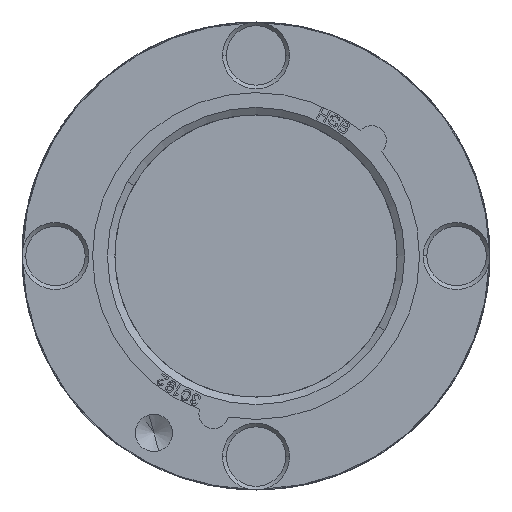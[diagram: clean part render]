
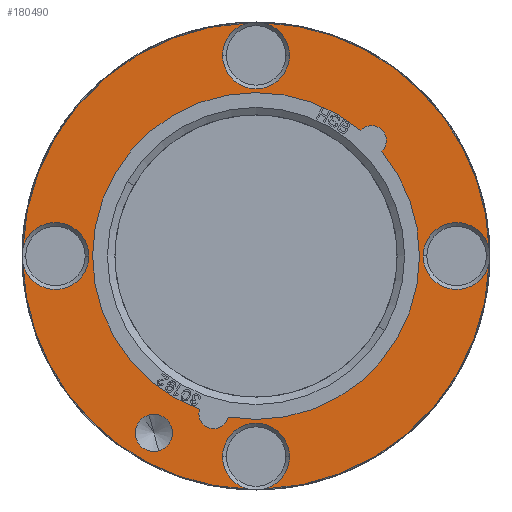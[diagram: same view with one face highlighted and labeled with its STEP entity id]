
A CAD part, left-side view. The second image highlights one B-rep face of the part: STEP entity #180490.
In plain terms, the highlighted planar face has unit normal (-1, 0, 0).
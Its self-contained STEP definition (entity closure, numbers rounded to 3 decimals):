
#178590=CARTESIAN_POINT('',(0.,-21.006,6.538));
#178600=VERTEX_POINT('',#178590);
#178630=CARTESIAN_POINT('',(0.,0.,0.
));
#178640=DIRECTION('',(-1.,0.,0.));
#178650=DIRECTION('',(0.,-0.383,0.924));
#178660=AXIS2_PLACEMENT_3D('',#178630,#178640,#178650);
#178670=CIRCLE('',#178660,22.);
#178680=CARTESIAN_POINT('',(0.,11.752,-18.598));
#178690=VERTEX_POINT('',#178680);
#178700=EDGE_CURVE('',#178690,#178600,#178670,.T.);
#178810=CARTESIAN_POINT('',(0.,0.,0.
));
#178820=DIRECTION('',(-1.,0.,0.));
#178830=DIRECTION('',(0.,-0.383,0.924));
#178840=AXIS2_PLACEMENT_3D('',#178810,#178820,#178830);
#178850=CIRCLE('',#178840,22.);
#178860=CARTESIAN_POINT('',(0.,-19.477,10.23));
#178870=VERTEX_POINT('',#178860);
#178880=CARTESIAN_POINT('',(0.,14.922,-16.165));
#178890=VERTEX_POINT('',#178880);
#178900=EDGE_CURVE('',#178870,#178890,#178850,.T.);
#179160=CARTESIAN_POINT('',(0.,-20.325,8.419));
#179170=DIRECTION('',(-1.,0.,0.));
#179180=DIRECTION('',(0.,0.383,0.924));
#179190=AXIS2_PLACEMENT_3D('',#179160,#179170,#179180);
#179200=CIRCLE('',#179190,2.);
#179210=EDGE_CURVE('',#178600,#178870,#179200,.T.);
#179260=CARTESIAN_POINT('',(0.,-28.096,-12.471));
#179270=DIRECTION('',(-1.,0.,-0.));
#179280=DIRECTION('',(0.,0.924,-0.383));
#179290=AXIS2_PLACEMENT_3D('',#179260,#179270,#179280);
#179300=PLANE('',#179290);
#179310=CARTESIAN_POINT('',(0.,21.817,-16.741));
#179320=DIRECTION('',(-1.,0.,0.));
#179330=DIRECTION('',(0.,-0.131,0.991));
#179340=AXIS2_PLACEMENT_3D('',#179310,#179320,#179330);
#179350=CIRCLE('',#179340,2.5);
#179360=CARTESIAN_POINT('',(0.,21.491,-14.262));
#179370=VERTEX_POINT('',#179360);
#179380=CARTESIAN_POINT('',(0.,22.144,-19.22));
#179390=VERTEX_POINT('',#179380);
#179400=EDGE_CURVE('',#179370,#179390,#179350,.T.);
#179410=ORIENTED_EDGE('',*,*,#179400,.F.);
#179420=EDGE_CURVE('',#179390,#179370,#179350,.T.);
#179430=ORIENTED_EDGE('',*,*,#179420,.F.);
#179440=EDGE_LOOP('',(#179430,#179410));
#179450=FACE_BOUND('',#179440,.T.);
#179460=ORIENTED_EDGE('',*,*,#178900,.F.);
#179470=CARTESIAN_POINT('',(0.,13.393,-17.454));
#179480=DIRECTION('',(-1.,0.,0.));
#179490=DIRECTION('',(0.,0.793,0.609));
#179500=AXIS2_PLACEMENT_3D('',#179470,#179480,#179490);
#179510=CIRCLE('',#179500,2.);
#179520=EDGE_CURVE('',#178890,#178690,#179510,.T.);
#179530=ORIENTED_EDGE('',*,*,#179520,.F.);
#179540=ORIENTED_EDGE('',*,*,#178700,.F.);
#179550=ORIENTED_EDGE('',*,*,#179210,.F.);
#179560=EDGE_LOOP('',(#179550,#179540,#179530,#179460));
#179570=FACE_BOUND('',#179560,.T.);
#179580=CARTESIAN_POINT('',(0.,-10.332,24.945));
#179590=DIRECTION('',(-1.,0.,0.));
#179600=DIRECTION('',(0.,0.924,0.383));
#179610=AXIS2_PLACEMENT_3D('',#179580,#179590,#179600);
#179620=CIRCLE('',#179610,4.5);
#179630=CARTESIAN_POINT('',(0.,-11.07,
29.384));
#179640=VERTEX_POINT('',#179630);
#179650=CARTESIAN_POINT('',(0.,-6.175,
26.667));
#179660=VERTEX_POINT('',#179650);
#179670=EDGE_CURVE('',#179640,#179660,#179620,.T.);
#179680=ORIENTED_EDGE('',*,*,#179670,.F.);
#179690=CARTESIAN_POINT('',(0.,-14.49,
23.223));
#179700=VERTEX_POINT('',#179690);
#179710=EDGE_CURVE('',#179660,#179700,#179620,.T.);
#179720=ORIENTED_EDGE('',*,*,#179710,.F.);
#179730=CARTESIAN_POINT('',(0.,-12.95,
28.605));
#179740=VERTEX_POINT('',#179730);
#179750=EDGE_CURVE('',#179700,#179740,#179620,.T.);
#179760=ORIENTED_EDGE('',*,*,#179750,.F.);
#179770=CARTESIAN_POINT('',(0.,0.,0.
));
#179780=DIRECTION('',(-1.,0.,0.));
#179790=DIRECTION('',(0.,0.924,-0.383));
#179800=AXIS2_PLACEMENT_3D('',#179770,#179780,#179790);
#179810=CIRCLE('',#179800,31.4);
#179820=CARTESIAN_POINT('',(0.,-29.01,12.016));
#179830=VERTEX_POINT('',#179820);
#179840=EDGE_CURVE('',#179830,#179740,#179810,.T.);
#179850=ORIENTED_EDGE('',*,*,#179840,.T.);
#179860=CARTESIAN_POINT('',(0.,-29.384,
-11.07));
#179870=VERTEX_POINT('',#179860);
#179880=EDGE_CURVE('',#179870,#179830,#179810,.T.);
#179890=ORIENTED_EDGE('',*,*,#179880,.T.);
#179900=CARTESIAN_POINT('',(0.,-24.945,-10.332));
#179910=DIRECTION('',(-1.,0.,0.));
#179920=DIRECTION('',(0.,0.924,0.383));
#179930=AXIS2_PLACEMENT_3D('',#179900,#179910,#179920);
#179940=CIRCLE('',#179930,4.5);
#179950=CARTESIAN_POINT('',(0.,-20.787,
-8.61));
#179960=VERTEX_POINT('',#179950);
#179970=EDGE_CURVE('',#179870,#179960,#179940,.T.);
#179980=ORIENTED_EDGE('',*,*,#179970,.F.);
#179990=CARTESIAN_POINT('',(0.,-28.605,
-12.95));
#180000=VERTEX_POINT('',#179990);
#180010=EDGE_CURVE('',#179960,#180000,#179940,.T.);
#180020=ORIENTED_EDGE('',*,*,#180010,.F.);
#180030=CARTESIAN_POINT('',(0.,11.07,
-29.384));
#180040=VERTEX_POINT('',#180030);
#180050=EDGE_CURVE('',#180040,#180000,#179810,.T.);
#180060=ORIENTED_EDGE('',*,*,#180050,.T.);
#180070=CARTESIAN_POINT('',(0.,10.332,-24.945));
#180080=DIRECTION('',(-1.,0.,0.));
#180090=DIRECTION('',(0.,0.924,0.383));
#180100=AXIS2_PLACEMENT_3D('',#180070,#180080,#180090);
#180110=CIRCLE('',#180100,4.5);
#180120=CARTESIAN_POINT('',(0.,6.175,
-26.667));
#180130=VERTEX_POINT('',#180120);
#180140=EDGE_CURVE('',#180040,#180130,#180110,.T.);
#180150=ORIENTED_EDGE('',*,*,#180140,.F.);
#180160=CARTESIAN_POINT('',(0.,14.49,
-23.223));
#180170=VERTEX_POINT('',#180160);
#180180=EDGE_CURVE('',#180130,#180170,#180110,.T.);
#180190=ORIENTED_EDGE('',*,*,#180180,.F.);
#180200=CARTESIAN_POINT('',(0.,12.95,
-28.605));
#180210=VERTEX_POINT('',#180200);
#180220=EDGE_CURVE('',#180170,#180210,#180110,.T.);
#180230=ORIENTED_EDGE('',*,*,#180220,.F.);
#180240=CARTESIAN_POINT('',(0.,29.01,-12.016));
#180250=VERTEX_POINT('',#180240);
#180260=EDGE_CURVE('',#180250,#180210,#179810,.T.);
#180270=ORIENTED_EDGE('',*,*,#180260,.T.);
#180280=CARTESIAN_POINT('',(0.,29.384,
11.07));
#180290=VERTEX_POINT('',#180280);
#180300=EDGE_CURVE('',#180290,#180250,#179810,.T.);
#180310=ORIENTED_EDGE('',*,*,#180300,.T.);
#180320=CARTESIAN_POINT('',(0.,24.945,10.332));
#180330=DIRECTION('',(-1.,0.,0.));
#180340=DIRECTION('',(0.,0.924,0.383));
#180350=AXIS2_PLACEMENT_3D('',#180320,#180330,#180340);
#180360=CIRCLE('',#180350,4.5);
#180370=CARTESIAN_POINT('',(0.,20.787,
8.61));
#180380=VERTEX_POINT('',#180370);
#180390=EDGE_CURVE('',#180290,#180380,#180360,.T.);
#180400=ORIENTED_EDGE('',*,*,#180390,.F.);
#180410=CARTESIAN_POINT('',(0.,28.605,
12.95));
#180420=VERTEX_POINT('',#180410);
#180430=EDGE_CURVE('',#180380,#180420,#180360,.T.);
#180440=ORIENTED_EDGE('',*,*,#180430,.F.);
#180450=EDGE_CURVE('',#179640,#180420,#179810,.T.);
#180460=ORIENTED_EDGE('',*,*,#180450,.T.);
#180470=EDGE_LOOP('',(#180460,#180440,#180400,#180310,#180270,#180230,
#180190,#180150,#180060,#180020,#179980,#179890,#179850,#179760,#179720,
#179680));
#180480=FACE_OUTER_BOUND('',#180470,.T.);
#180490=ADVANCED_FACE('',(#179450,#179570,#180480),#179300,.T.);
